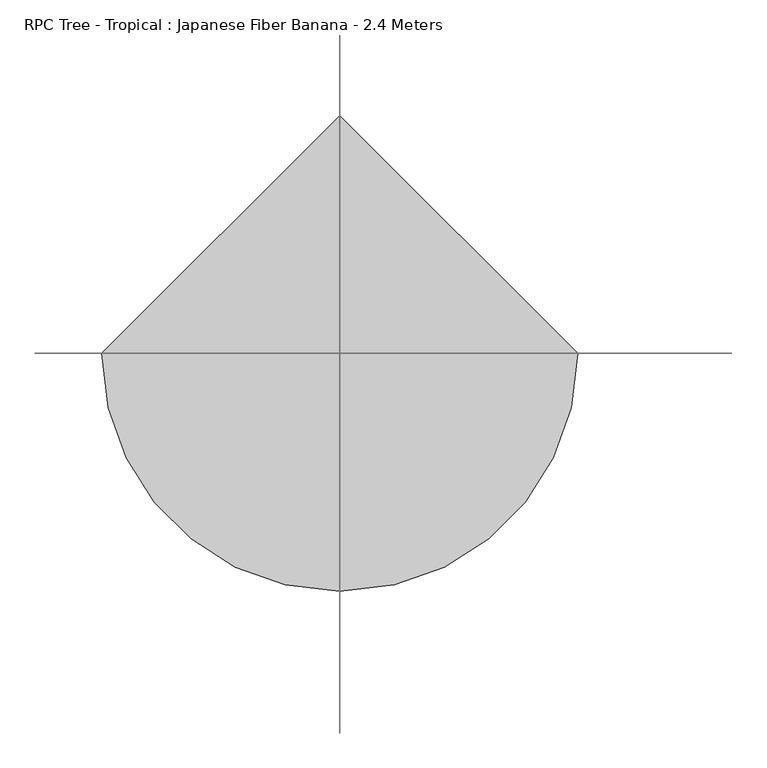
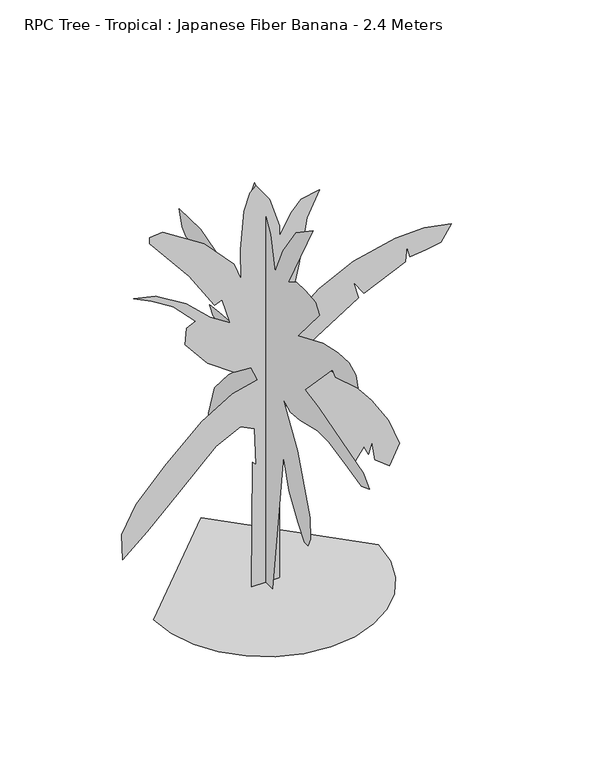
"""IFC4 building model written with IfcOpenShell, lengths in millimetres: geographic element geometry, RPC Tree - Tropical : Japanese Fiber Banana - 2.4 Meters."""

from ifc_helpers import new_model, si_unit, origin, place, context, project, spatial, triangles, source, transform, mapped, element, save


def rpc_tree_tropical_japanese_fiber_banana_2_4_meters_2e6d15ad(model_context):
    return source(origin(), model_context, "Body", "Tessellation", [
        triangles([(-639.3178808, 0.0, 3.7e-06), (-622.4128807, -146.5347148, 3.7e-06), (-574.2626584, -281.1033905, 3.7e-06), (-498.7249, -399.8512839, 3.7e-06), (-399.6546026, -498.9215813, 3.7e-06), (-280.9067273, -574.4593397, 3.7e-06), (-146.3380426, -622.6095257, 3.7e-06), (0.196699, -639.5145258, 3.7e-06), (146.7313871, -622.6095257, 3.7e-06), (281.3000536, -574.4593397, 3.7e-06), (400.0479652, -498.9215813, 3.7e-06), (499.1182626, -399.8512839, 3.7e-06), (574.656021, -281.1033905, 3.7e-06), (622.8061707, -146.5344696, 3.7e-06), (639.7111708, 5.59e-05, 3.7e-06), (0.1965872, 639.5145258, 3.7e-06), (72.5559047, -2.4e-06, 1465.492234), (85.0391952, -3.9e-06, 1478.3097656), (106.8852636, -6.2e-06, 1497.8148251), (136.5331088, -9.2e-06, 1522.8923641), (172.4227059, -1.28e-05, 1552.4299507), (212.9935943, -1.67e-05, 1585.3100658), (256.6849863, -2.09e-05, 1620.4176613), (301.9376202, -2.52e-05, 1656.6427757), (497.3357769, -3.68e-05, 1754.3430622), (735.2139896, -4.34e-05, 1809.5632381), (900.8770609, -4.39e-05, 1813.8107986), (1053.7975233, -4.04e-05, 1784.075695), (994.3298595, -2.97e-05, 1694.872855), (909.3720366, -2.77e-05, 1677.8804329), (820.1692692, -2.67e-05, 1669.3853119), (803.1767017, -3.43e-05, 1733.1030796), (794.6816534, -2.42e-05, 1648.1478001), (556.8059478, -1.15e-05, 1541.9523926), (497.3357769, -2.16e-05, 1626.9076721), (527.0708805, -9.5e-06, 1524.9598251), (246.7159545, 1.13e-05, 1350.8018509), (204.2378242, 1.99e-05, 1278.5891075), (450.610613, 4.47e-05, 1070.4459257), (599.2835876, 6.7e-05, 883.5427992), (696.9839104, 8.52e-05, 730.6223368), (760.699062, 0.0001045, 569.2043189), (701.2313982, 0.0001181, 454.5139721), (620.5211357, 0.0001105, 518.2316671), (603.5311117, 9.74e-05, 628.6744898), (582.2910564, 0.000105, 564.9567947), (556.8059478, 9.84e-05, 620.1795141), (510.0808202, 0.0001065, 552.2142586), (233.9724192, 6.75e-05, 879.2953114), (98.0427347, 4.83e-05, 1040.7108221), (81.0516842, 4.01e-05, 1108.6760777), (76.8036695, 0.0001723, 0.0), (-80.3648348, 0.0001723, 0.0), (-76.1170745, 8.32e-05, 747.6123608), (-54.8780048, 8.57e-05, 726.3748489), (-63.3737798, 5.99e-05, 943.0130064), (-144.0820393, 5.48e-05, 985.4906462), (-284.259248, 6.29e-05, 917.5254633), (-492.4023934, 8.72e-05, 713.6297693), (-675.0579958, 0.000108, 539.4717224), (-815.2334513, 0.0001222, 420.5313443), (-819.4834826, 0.000104, 573.4543502), (-738.7732201, 8.57e-05, 726.3748489), (-564.6151368, 6.39e-05, 909.030415), (-364.9670033, 4.22e-05, 1091.685981), (-190.8077029, 2.95e-05, 1197.878845), (-46.382475, 2.55e-05, 1231.8614365), (-84.6125952, 1.53e-05, 1316.8191868), (-182.312164, 1.43e-05, 1325.3143078), (-330.9843756, 1.7e-06, 1431.5095699), (-458.419802, -1.71e-05, 1588.6775928), (-449.9247537, -2.82e-05, 1682.1278481), (-398.9495948, -3.13e-05, 1707.6155365), (-526.3850212, -4.69e-05, 1839.2983418), (-649.5704527, -5.61e-05, 1915.7586456), (-751.518227, -6.21e-05, 1966.7312611), (-628.3303974, -5.86e-05, 1936.9961575), (-454.1722778, -4.59e-05, 1830.8033661), (-318.2418394, -3.07e-05, 1703.367976), (-203.5512383, -2.21e-05, 1631.1552326), (-250.2766384, -4.04e-05, 1784.075695), (-292.7542781, -3.83e-05, 1767.0855984), (-437.1797104, -6.52e-05, 1992.2188042), (-662.3129889, -9.76e-05, 2264.0772102), (-662.3129889, -0.0001021, 2302.3074348), (-585.852685, -0.0001027, 2306.55485), (-352.2244308, -8.49e-05, 2157.8819481), (-182.312164, -6.32e-05, 1975.2263821), (-139.8340246, -5.05e-05, 1869.0334454), (-144.0820393, -7.18e-05, 2047.4389801), (-122.8429742, -9.86e-05, 2272.574802), (-88.8603646, -0.0001102, 2370.2726177), (-54.8780048, -0.0001138, 2400.0077213), (21.5823377, -0.0001011, 2293.8123138), (76.8036695, -7.99e-05, 2115.4043083), (76.8036695, -7.28e-05, 2055.9365719), (144.7686344, -8.64e-05, 2170.626955), (199.9900457, -9.35e-05, 2230.0946915), (306.1851625, -9.61e-05, 2251.3346741), (233.9724192, -7.89e-05, 2106.9091873), (187.2465104, -4.8e-05, 1847.7934628), (140.5208741, -2.26e-05, 1635.4027931), (122.4893166, -1.78e-05, 1594.7825981), (105.4982571, -1.32e-05, 1556.205011), (90.5874576, -9.1e-06, 1521.7148197), (78.7976703, -5.7e-06, 1493.3547775), (71.1688981, -3.3e-06, 1473.1696724), (68.7416435, -2.1e-06, 1463.1996414), (0.1966114, -224.793728, 1941.5012604), (0.1966075, -300.4359677, 1984.7263836), (0.1966072, -390.4887377, 1988.3263092), (0.1966081, -487.7415587, 1977.5213001), (0.196613, -527.3641766, 1923.4911678), (0.1966355, -314.8460074, 1671.3478374), (0.1966262, -559.7842907, 1775.8081764), (0.1966233, -707.4672821, 1808.2258198), (0.196623, -815.5276194, 1811.8283615), (0.1966255, -887.570315, 1783.0106438), (0.1966316, -905.5804075, 1714.5729607), (0.1966378, -685.8547205, 1646.1328068), (0.1966352, -657.0396189, 1674.9503792), (0.1966606, -386.8862323, 1390.3894054), (0.1966629, -516.5591675, 1365.1743748), (0.1966745, -959.6105398, 1235.5014759), (0.1966796, -1020.8457556, 1177.8688019), (0.1966822, -941.6005199, 1149.0511568), (0.1966796, -808.3250793, 1177.8688019), (0.1966761, -613.8144957, 1217.4913834), (0.1966761, -509.3541203, 1217.4913834), (0.1966796, -336.4560619, 1177.8688019), (0.1966806, -242.8040204, 1167.0612494), (0.1966774, -167.1610358, 1203.0813618), (0.1966973, -311.243502, 979.7556038), (0.1967267, -433.7113901, 651.9695795), (0.1967379, -440.9164009, 525.899186), (0.1967428, -415.7013339, 471.8665103), (0.1967428, -379.6812215, 471.8665103), (0.1967353, -318.4460057, 554.7142877), (0.1967234, -228.3957247, 687.9896919), (0.196708, -174.3650655, 860.8877867), (0.1967286, -145.5487194, 630.3570179), (0.196785, -66.3037109, 3.7e-06), (0.196785, 81.3800072, 3.7e-06), (0.1967656, 81.3800072, 216.1224368), (0.1967721, 63.3697012, 144.0817123), (0.1967482, 34.5533597, 410.6338017), (0.1967202, 34.5533597, 724.0098043), (0.1966945, 77.7777471, 1012.1732471), (0.1966986, 171.4310513, 965.348053), (0.1967118, 326.3185266, 817.6625908), (0.1967222, 423.5738548, 702.3972427), (0.1967286, 437.9814056, 630.3570179), (0.196726, 463.1964726, 659.1745903), (0.1967334, 459.5939672, 576.3268493), (0.1967302, 520.829183, 612.3469254), (0.196735, 542.4417446, 558.3167931), (0.1967247, 564.0543062, 673.5821411), (0.196708, 506.4216322, 860.8877867), (0.1966935, 369.5436862, 1022.9807997), (0.1966771, 167.8290364, 1206.6838308), (0.1966729, 268.6858526, 1253.5115685), (0.19667, 387.5537424, 1285.9290665), (0.1966713, 452.3914636, 1271.5215157), (0.19667, 520.829183, 1285.9290665), (0.1966661, 556.8492954, 1329.1541897), (0.1966648, 459.5939672, 1343.5617405), (0.1966635, 250.6757964, 1357.9692913), (0.1966581, 326.3185266, 1419.2045071), (0.1966465, 506.4216322, 1548.8774059), (0.196642, 718.9423084, 1599.3076126), (0.196642, 787.3799915, 1599.3076126), (0.1966387, 827.0026457, 1635.3277977), (0.1966307, 855.8202181, 1725.3779697), (0.1966304, 643.2995419, 1728.9805115), (0.1966358, 434.3789002, 1667.7452957), (0.1966413, 279.493387, 1606.51008), (0.1966552, 106.5943384, 1451.6221504), (0.1966184, 149.8187259, 1862.2559521), (0.1965917, 182.2370778, 2161.2244766), (0.1965763, 110.1963533, 2334.1224987), (0.1965824, 45.359645, 2265.6848156), (0.1965956, -44.6916443, 2118.0018242), (0.1966133, -87.9160272, 1919.8886261), (0.1965978, -167.1610358, 2092.7866482), (0.1965811, -296.8334441, 2280.0923664), (0.1965711, -462.5289625, 2391.7551727)], [[15, 16, 1], [14, 15, 1], [14, 1, 2], [13, 14, 2], [13, 2, 3], [13, 3, 4], [12, 13, 4], [11, 12, 4], [11, 4, 5], [11, 5, 6], [11, 6, 7], [11, 7, 8], [11, 8, 9], [11, 9, 10], [75, 76, 77], [45, 46, 47], [53, 54, 55], [60, 61, 62], [98, 99, 100], [97, 98, 100], [27, 28, 29], [27, 29, 30], [47, 48, 49], [60, 62, 63], [59, 60, 63], [59, 63, 64], [58, 59, 64], [58, 64, 65], [74, 75, 77], [74, 77, 78], [73, 74, 78], [73, 78, 79], [42, 43, 44], [42, 44, 45], [41, 42, 45], [92, 93, 94], [91, 92, 94], [96, 97, 100], [96, 100, 101], [52, 53, 55], [51, 52, 55], [51, 55, 56], [57, 58, 65], [57, 65, 66], [57, 66, 67], [27, 30, 31], [27, 31, 32], [26, 27, 32], [84, 85, 86], [83, 84, 86], [83, 86, 87], [83, 87, 88], [82, 83, 88], [81, 82, 88], [81, 88, 89], [56, 57, 67], [51, 56, 67], [91, 94, 95], [90, 91, 95], [90, 95, 96], [89, 90, 96], [89, 96, 101], [89, 101, 102], [33, 34, 35], [32, 33, 35], [26, 32, 35], [25, 26, 35], [24, 25, 35], [81, 89, 102], [80, 81, 102], [80, 102, 103], [80, 103, 104], [80, 104, 105], [80, 105, 106], [80, 106, 107], [40, 41, 45], [40, 45, 47], [40, 47, 49], [39, 40, 49], [38, 39, 49], [38, 49, 50], [38, 50, 51], [38, 51, 67], [38, 67, 68], [35, 36, 37], [24, 35, 37], [23, 24, 37], [22, 23, 37], [21, 22, 37], [20, 21, 37], [19, 20, 37], [18, 19, 37], [17, 18, 37], [17, 37, 38], [17, 38, 68], [108, 17, 68], [80, 107, 108], [80, 108, 68], [80, 68, 69], [80, 69, 70], [80, 70, 71], [79, 80, 71], [73, 79, 71], [73, 71, 72], [143, 144, 145], [185, 186, 109], [184, 185, 109], [155, 156, 157], [183, 184, 109], [151, 152, 153], [153, 154, 155], [164, 165, 166], [163, 164, 166], [124, 125, 126], [179, 180, 181], [172, 173, 174], [171, 172, 174], [170, 171, 174], [169, 170, 174], [169, 174, 175], [142, 143, 145], [141, 142, 145], [141, 145, 146], [141, 146, 147], [140, 141, 147], [140, 147, 148], [162, 163, 166], [162, 166, 167], [161, 162, 167], [179, 181, 182], [178, 179, 182], [178, 182, 183], [153, 155, 157], [153, 157, 158], [151, 153, 158], [150, 151, 158], [150, 158, 159], [149, 150, 159], [149, 159, 160], [148, 149, 160], [124, 126, 127], [123, 124, 127], [123, 127, 128], [123, 128, 129], [118, 119, 120], [117, 118, 120], [116, 117, 120], [116, 120, 121], [115, 116, 121], [115, 121, 122], [114, 115, 122], [168, 169, 175], [168, 175, 176], [168, 176, 177], [167, 168, 177], [177, 178, 183], [122, 123, 129], [122, 129, 130], [112, 113, 114], [111, 112, 114], [110, 111, 114], [109, 110, 114], [183, 109, 114], [177, 183, 114], [177, 114, 122], [177, 122, 130], [177, 130, 131], [177, 131, 132], [167, 177, 132], [161, 167, 132], [160, 161, 132], [148, 160, 132], [140, 148, 132], [140, 132, 133], [140, 133, 134], [139, 140, 134], [138, 139, 134], [138, 134, 135], [137, 138, 135], [137, 135, 136]], closed=False),
    ])


if __name__ == "__main__":
    model = new_model("IFC4")
    model_context = context("Model", 3, world=origin())
    ifc_project = project(units=[si_unit("LENGTHUNIT", "METRE", prefix="MILLI")], contexts=[model_context])
    site = spatial("IfcSite", under=ifc_project)
    building = spatial("IfcBuilding", under=site)
    placement = place(None, origin())
    rpc_tree_tropical_japanese_fiber_banana_2_4_meters_shape = rpc_tree_tropical_japanese_fiber_banana_2_4_meters_2e6d15ad(model_context)
    element("IfcGeographicElement", 1, ObjectType="RPC Tree - Tropical : Japanese Fiber Banana - 2.4 Meters", at=placement, inside=building, context=model_context, shape_type="MappedRepresentation", body=[
        mapped(rpc_tree_tropical_japanese_fiber_banana_2_4_meters_shape, transform((0.0, 0.0, 0.0), x_axis=(1.0, 0.0, 0.0), y_axis=(0.0, 1.0, 0.0), z_axis=(0.0, 0.0, 1.0))),
    ])
    save(model, "model.ifc")
